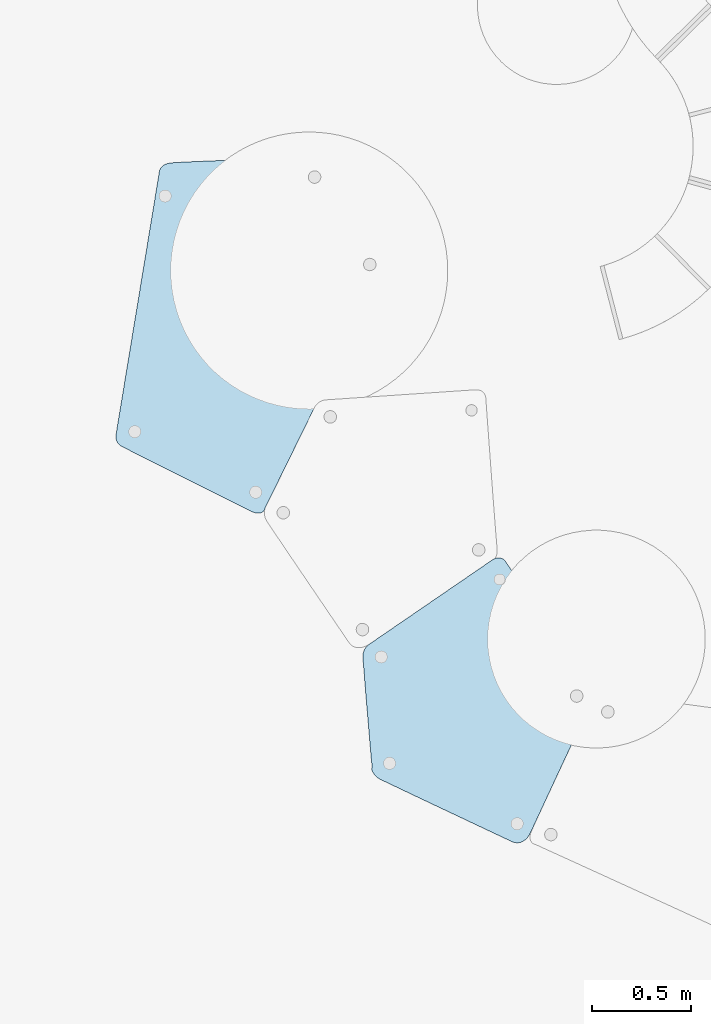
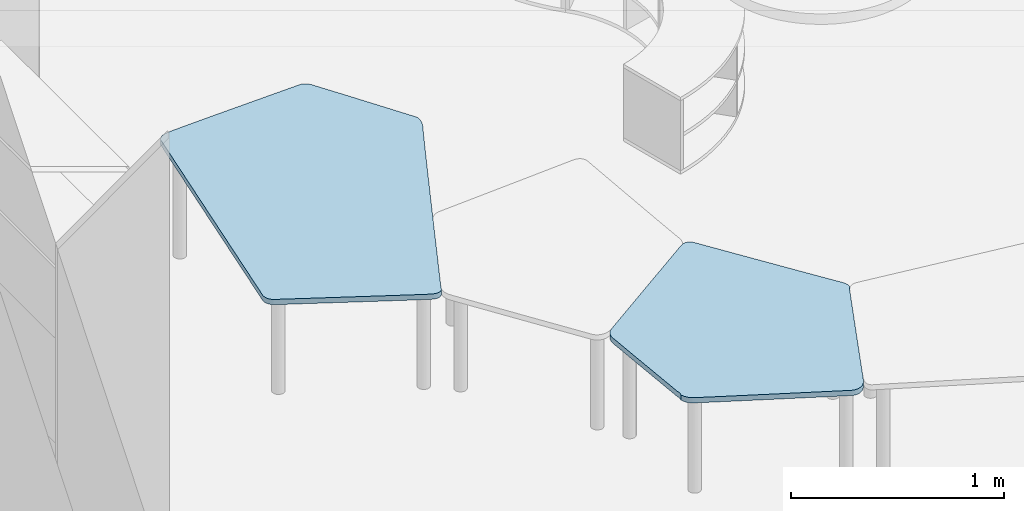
# One storey, part 9 of 64: 2 slabs.
"""IFC2X3 building model written with IfcOpenShell, lengths in metres."""

from ifc_helpers import new_model, entity, si_unit, converted_unit, derived_unit, direction, frame, frame_2d, origin, place, context, subcontext, project, spatial, polyline, circle_curve, parameter, trimmed, segment, composite_curve, outline, extrude, material, layer, layer_set, layer_usage, type_object, element, save


model = new_model("IFC2X3")

# Units and contexts
model_context = context("Model", 3, precision=1e-05, world=origin(), true_north=direction((6.123031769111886e-17, 1.0)))
body_context = subcontext(model_context, "Body", "Model", "MODEL_VIEW")
ifc_project = project(units=[si_unit("LENGTHUNIT", "METRE"), si_unit("AREAUNIT", "SQUARE_METRE"), si_unit("VOLUMEUNIT", "CUBIC_METRE"), converted_unit("PLANEANGLEUNIT", "DEGREE", entity("IfcRatioMeasure", 0.017453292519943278), si_unit("PLANEANGLEUNIT", "RADIAN"), dimensions=[0, 0, 0, 0, 0, 0, 0]), si_unit("MASSUNIT", "GRAM", prefix="KILO"), derived_unit("MASSDENSITYUNIT", [(si_unit("MASSUNIT", "GRAM", prefix="KILO"), 1), (si_unit("LENGTHUNIT", "METRE"), -3)]), derived_unit("MOMENTOFINERTIAUNIT", [(si_unit("LENGTHUNIT", "METRE"), 4)]), si_unit("TIMEUNIT", "SECOND"), si_unit("FREQUENCYUNIT", "HERTZ"), si_unit("THERMODYNAMICTEMPERATUREUNIT", "DEGREE_CELSIUS"), derived_unit("THERMALTRANSMITTANCEUNIT", [(si_unit("MASSUNIT", "GRAM", prefix="KILO"), 1), (si_unit("THERMODYNAMICTEMPERATUREUNIT", "KELVIN"), -1), (si_unit("TIMEUNIT", "SECOND"), -3)]), derived_unit("THERMALCONDUCTANCEUNIT", [(si_unit("MASSUNIT", "GRAM", prefix="KILO"), 1), (si_unit("LENGTHUNIT", "METRE"), 1), (si_unit("THERMODYNAMICTEMPERATUREUNIT", "KELVIN"), -1), (si_unit("TIMEUNIT", "SECOND"), -3)]), derived_unit("VOLUMETRICFLOWRATEUNIT", [(si_unit("LENGTHUNIT", "METRE"), 3), (si_unit("TIMEUNIT", "SECOND"), -1)]), derived_unit("MASSFLOWRATEUNIT", [(si_unit("MASSUNIT", "GRAM", prefix="KILO"), 1), (si_unit("TIMEUNIT", "SECOND"), -1)]), derived_unit("ROTATIONALFREQUENCYUNIT", [(si_unit("TIMEUNIT", "SECOND"), -1)]), si_unit("ELECTRICCURRENTUNIT", "AMPERE"), si_unit("ELECTRICVOLTAGEUNIT", "VOLT"), si_unit("POWERUNIT", "WATT"), si_unit("FORCEUNIT", "NEWTON", prefix="KILO"), si_unit("ILLUMINANCEUNIT", "LUX"), si_unit("LUMINOUSFLUXUNIT", "LUMEN"), si_unit("LUMINOUSINTENSITYUNIT", "CANDELA"), derived_unit("USERDEFINED", [(si_unit("MASSUNIT", "GRAM", prefix="KILO"), -1), (si_unit("LENGTHUNIT", "METRE"), -2), (si_unit("TIMEUNIT", "SECOND"), 3), (si_unit("LUMINOUSFLUXUNIT", "LUMEN"), 1)]), derived_unit("USERDEFINED", [(si_unit("MASSUNIT", "GRAM", prefix="KILO"), 1), (si_unit("LENGTHUNIT", "METRE"), 3), (si_unit("TIMEUNIT", "SECOND"), -3), (si_unit("ELECTRICCURRENTUNIT", "AMPERE"), -2)]), derived_unit("USERDEFINED", [(si_unit("LENGTHUNIT", "METRE"), 2), (si_unit("TIMEUNIT", "SECOND"), -2)]), derived_unit("SOUNDPOWERUNIT", [(si_unit("MASSUNIT", "GRAM", prefix="KILO"), 1), (si_unit("LENGTHUNIT", "METRE"), 2), (si_unit("TIMEUNIT", "SECOND"), -3)]), derived_unit("SOUNDPRESSUREUNIT", [(si_unit("MASSUNIT", "GRAM", prefix="KILO"), 1), (si_unit("LENGTHUNIT", "METRE"), -1), (si_unit("TIMEUNIT", "SECOND"), -2)]), derived_unit("LINEARVELOCITYUNIT", [(si_unit("LENGTHUNIT", "METRE"), 1), (si_unit("TIMEUNIT", "SECOND"), -1)]), si_unit("PRESSUREUNIT", "PASCAL"), derived_unit("USERDEFINED", [(si_unit("LENGTHUNIT", "METRE"), -2), (si_unit("MASSUNIT", "GRAM", prefix="KILO"), 1), (si_unit("TIMEUNIT", "SECOND"), -2)]), derived_unit("LINEARFORCEUNIT", [(si_unit("MASSUNIT", "GRAM", prefix="KILO"), 1), (si_unit("LENGTHUNIT", "METRE"), 1), (si_unit("TIMEUNIT", "SECOND"), -2), (si_unit("LENGTHUNIT", "METRE"), -1)]), derived_unit("PLANARFORCEUNIT", [(si_unit("MASSUNIT", "GRAM", prefix="KILO"), 1), (si_unit("LENGTHUNIT", "METRE"), 1), (si_unit("TIMEUNIT", "SECOND"), -2), (si_unit("LENGTHUNIT", "METRE"), -2)]), derived_unit("SPECIFICHEATCAPACITYUNIT", [(si_unit("LENGTHUNIT", "METRE"), 2), (si_unit("TIMEUNIT", "SECOND"), -2), (si_unit("THERMODYNAMICTEMPERATUREUNIT", "KELVIN"), -1)]), derived_unit("VAPORPERMEABILITYUNIT", [(si_unit("TIMEUNIT", "SECOND"), 1), (si_unit("LENGTHUNIT", "METRE"), -1)]), derived_unit("DYNAMICVISCOSITYUNIT", [(si_unit("MASSUNIT", "GRAM", prefix="KILO"), 1), (si_unit("LENGTHUNIT", "METRE"), -1), (si_unit("TIMEUNIT", "SECOND"), -1)]), derived_unit("THERMALEXPANSIONCOEFFICIENTUNIT", [(si_unit("THERMODYNAMICTEMPERATUREUNIT", "KELVIN"), -1)])], contexts=[model_context])

# Site, building, storey
site_placement = place(None, origin())
site = spatial("IfcSite", under=ifc_project, at=site_placement, Name="Default", CompositionType="ELEMENT")
building_placement = place(site_placement, origin())
building = spatial("IfcBuilding", under=site, at=building_placement, CompositionType="ELEMENT")
storey_placement = place(building_placement, origin())
storey = spatial("IfcBuildingStorey", under=building, at=storey_placement, Name="REZ-DE-CHAUSSÉE", CompositionType="ELEMENT", Elevation=0.0)

# Slabs
ifc_material = material(Name="Bois - Pin granuleux horizontal")
ifc_layer = layer(ifc_material, 0.03)
ifc_layer_set = layer_set([ifc_layer], Name="Sol:Dalle-007:1417")
ifc_layer_usage = layer_usage(ifc_layer_set, "AXIS3", "POSITIVE", 0.0)
slab_type = type_object("IfcSlabType", Name="Sol:Dalle-007:1417", PredefinedType="FLOOR", material=ifc_layer_set)
slab_1_placement = place(storey_placement, origin())
element("IfcSlab", 1, at=slab_1_placement, inside=storey, type_object=slab_type, material=ifc_layer_usage, Name="Sol:Dalle-007:1417", ObjectType="Sol:Dalle-007:1417", PredefinedType="FLOOR", context=body_context, shape_type="SweptSolid", body=[
    extrude(outline(composite_curve([segment(trimmed(circle_curve(frame_2d((-0.11888241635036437, -0.4268204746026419), x_axis=(1.0, 0.0)), 0.8675161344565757), [parameter(0.0)], [parameter(3.2776425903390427)], True, "PARAMETER"), True, "CONTINUOUS"), segment(trimmed(circle_curve(frame_2d((-8.564186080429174, -0.7788609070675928), x_axis=(0.9990710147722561, 0.043094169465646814)), 9.320058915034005), [parameter(0.0)], [parameter(0.557997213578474)], True, "PARAMETER"), True, "CONTINUOUS"), segment(trimmed(circle_curve(frame_2d((-38.731476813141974, -2.357232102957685), x_axis=(0.9986270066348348, 0.052384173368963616)), 39.52861093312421), [parameter(0.0)], [parameter(0.3567350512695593)], True, "PARAMETER"), True, "CONTINUOUS"), segment(trimmed(circle_curve(frame_2d((-93.98943049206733, -5.528662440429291), x_axis=(0.9983257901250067, 0.05784130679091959)), 94.87747943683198), [parameter(0.0)], [parameter(0.20427058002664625)], True, "PARAMETER"), True, "CONTINUOUS"), segment(trimmed(circle_curve(frame_2d((0.6647336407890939, 0.2993991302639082), x_axis=(0.9983224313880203, -0.05789924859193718)), 0.04437780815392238), [parameter(0.0)], [parameter(25.986118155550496)], True, "PARAMETER"), True, "CONTINUOUS"), segment(trimmed(circle_curve(frame_2d((0.6521479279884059, 0.29618593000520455), x_axis=(0.9349482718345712, 0.35478405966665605)), 0.057260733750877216), [parameter(0.0)], [parameter(20.799882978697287)], True, "PARAMETER"), True, "CONTINUOUS"), segment(trimmed(circle_curve(frame_2d((0.6409751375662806, 0.2852522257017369), x_axis=(0.7410328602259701, 0.6714687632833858)), 0.07287863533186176), [parameter(0.0)], [parameter(18.577788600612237)], True, "PARAMETER"), True, "CONTINUOUS"), segment(trimmed(circle_curve(frame_2d((0.7138821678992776, 0.42576140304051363), x_axis=(-0.436394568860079, -0.8997554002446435)), 0.08548733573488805), [parameter(356.9005785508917)], [parameter(0.0)], True, "PARAMETER"), False, "CONTINUOUS"), segment(trimmed(circle_curve(frame_2d((23.168046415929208, 45.51208256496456), x_axis=(-0.4458656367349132, -0.8950999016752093)), 50.453708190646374), [parameter(359.8072561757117)], [parameter(0.0)], True, "PARAMETER"), False, "CONTINUOUS"), segment(trimmed(circle_curve(frame_2d((-29.66167695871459, -60.50146894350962), x_axis=(0.4438945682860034, 0.8960790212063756)), 67.99441974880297), [parameter(0.0)], [parameter(0.10759431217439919)], True, "PARAMETER"), True, "CONTINUOUS"), segment(trimmed(circle_curve(frame_2d((-70.36817158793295, -142.94319971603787), x_axis=(0.4425108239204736, 0.896763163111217)), 159.93818768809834), [parameter(0.0)], [parameter(0.09199572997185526)], True, "PARAMETER"), True, "CONTINUOUS"), segment(trimmed(circle_curve(frame_2d((0.2202074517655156, 0.660573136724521), x_axis=(-0.5719837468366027, -0.8202649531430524)), 0.0775911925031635), [parameter(358.0925842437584)], [parameter(0.0)], True, "PARAMETER"), False, "CONTINUOUS"), segment(trimmed(circle_curve(frame_2d((0.16460837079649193, 0.5058946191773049), x_axis=(0.09811740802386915, 0.9951748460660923)), 0.09299435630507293), [parameter(0.0)], [parameter(21.991367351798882)], True, "PARAMETER"), True, "CONTINUOUS"), segment(trimmed(circle_curve(frame_2d((0.1794956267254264, 0.44767488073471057), x_axis=(-0.2683966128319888, 0.9633084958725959)), 0.15306473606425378), [parameter(0.0)], [parameter(9.835959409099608)], True, "PARAMETER"), True, "CONTINUOUS"), segment(trimmed(circle_curve(frame_2d((0.21231419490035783, 0.3782942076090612), x_axis=(-0.42853921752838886, 0.9035231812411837)), 0.22981580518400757), [parameter(0.0)], [parameter(8.254747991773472)], True, "PARAMETER"), True, "CONTINUOUS"), segment(trimmed(circle_curve(frame_2d((-1.8042675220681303, 3.486121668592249), x_axis=(0.5436921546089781, -0.8392847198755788)), 3.4749528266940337), [parameter(358.6042345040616)], [parameter(0.0)], True, "PARAMETER"), False, "CONTINUOUS"), segment(trimmed(circle_curve(frame_2d((-24.162704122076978, 39.33516794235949), x_axis=(0.5287318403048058, -0.8487889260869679)), 45.72476712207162), [parameter(359.7973154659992)], [parameter(0.0)], True, "PARAMETER"), False, "CONTINUOUS"), segment(trimmed(circle_curve(frame_2d((-107.47377627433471, 174.0676198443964), x_axis=(0.5258782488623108, -0.8505598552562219)), 204.13426191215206), [parameter(359.87486221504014)], [parameter(0.0)], True, "PARAMETER"), False, "CONTINUOUS"), segment(trimmed(circle_curve(frame_2d((-265.1613114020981, 430.10128272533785), x_axis=(0.5242502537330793, -0.8515642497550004)), 504.83109875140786), [parameter(359.92983554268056)], [parameter(0.0)], True, "PARAMETER"), False, "CONTINUOUS"), segment(trimmed(circle_curve(frame_2d((-1.0204082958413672, -0.15007678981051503), x_axis=(-0.29517086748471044, 0.9554444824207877)), 0.03293324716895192), [parameter(0.0)], [parameter(40.01981883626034)], True, "PARAMETER"), True, "CONTINUOUS"), segment(trimmed(circle_curve(frame_2d((-1.0185055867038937, -0.15104750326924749), x_axis=(-0.8437601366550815, 0.536720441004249)), 0.03505905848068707), [parameter(0.0)], [parameter(36.75676174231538)], True, "PARAMETER"), True, "CONTINUOUS"), segment(trimmed(circle_curve(frame_2d((-0.9939239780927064, -0.14971574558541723), x_axis=(-0.9977978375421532, -0.06632854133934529)), 0.05967357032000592), [parameter(0.0)], [parameter(15.399023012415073)], True, "PARAMETER"), True, "CONTINUOUS"), segment(trimmed(circle_curve(frame_2d((-0.9488589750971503, -0.1342244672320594), x_axis=(-0.94495259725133, -0.32720725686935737)), 0.10732662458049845), [parameter(0.0)], [parameter(11.46473493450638)], True, "PARAMETER"), True, "CONTINUOUS"), segment(trimmed(circle_curve(frame_2d((0.4745618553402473, 0.7007147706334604), x_axis=(-0.8624690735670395, -0.5061097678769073)), 1.7575535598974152), [parameter(0.0)], [parameter(0.8777678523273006)], True, "PARAMETER"), True, "CONTINUOUS"), segment(trimmed(circle_curve(frame_2d((0.7535755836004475, 0.9005266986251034), x_axis=(-0.8481499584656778, -0.529756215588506)), 2.099917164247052), [parameter(0.0)], [parameter(0.08889748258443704)], True, "PARAMETER"), True, "CONTINUOUS"), segment(trimmed(circle_curve(frame_2d((19.548504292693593, 12.503947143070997), x_axis=(-0.8505945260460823, -0.5258221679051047)), 24.18807619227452), [parameter(0.0)], [parameter(0.223562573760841)], True, "PARAMETER"), True, "CONTINUOUS"), segment(trimmed(circle_curve(frame_2d((87.67307280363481, 54.96304846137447), x_axis=(-0.8486333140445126, -0.5289815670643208)), 104.4609360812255), [parameter(0.0)], [parameter(0.14117936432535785)], True, "PARAMETER"), True, "CONTINUOUS"), segment(trimmed(circle_curve(frame_2d((213.91393726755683, 133.99524966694), x_axis=(-0.8474880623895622, -0.5308144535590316)), 253.39999160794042), [parameter(0.0)], [parameter(0.08024079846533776)], True, "PARAMETER"), True, "CONTINUOUS"), segment(trimmed(circle_curve(frame_2d((-0.6055735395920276, -0.7772285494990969), x_axis=(-0.7789799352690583, -0.6270488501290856)), 0.058245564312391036), [parameter(0.0)], [parameter(60.05454749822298)], True, "PARAMETER"), True, "CONTINUOUS"), segment(polyline([(-0.596575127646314, -0.8347748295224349), (0.7043496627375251, -0.49235907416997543)]), True, "CONTINUOUS"), segment(trimmed(circle_curve(frame_2d((0.7020356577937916, -0.4554112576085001), x_axis=(0.06250653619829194, -0.9980445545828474)), 0.03702020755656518), [parameter(0.0)], [parameter(30.46259076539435)], True, "PARAMETER"), True, "CONTINUOUS"), segment(trimmed(circle_curve(frame_2d((0.6963879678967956, -0.44502440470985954), x_axis=(0.5404297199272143, -0.8413891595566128)), 0.04880174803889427), [parameter(0.0)], [parameter(30.535206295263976)], True, "PARAMETER"), True, "CONTINUOUS"), segment(trimmed(circle_curve(frame_2d((0.6767547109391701, -0.4347858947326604), x_axis=(0.8910196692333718, -0.4539647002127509)), 0.07094283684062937), [parameter(0.0)], [parameter(14.589557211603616)], True, "PARAMETER"), True, "CONTINUOUS"), segment(trimmed(circle_curve(frame_2d((0.6370955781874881, -0.4261072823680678), x_axis=(0.9767284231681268, -0.21447980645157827)), 0.11154042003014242), [parameter(0.0)], [parameter(12.018657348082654)], True, "PARAMETER"), True, "CONTINUOUS")], self_intersect=False)), frame((112.47039684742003, 8.665975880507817, 0.5900000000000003), z_axis=(0.0, 0.0, -1.0), x_axis=(-0.09382646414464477, 0.9955885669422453, 0.0)), (0.0, 0.0, 1.0), 0.030000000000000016),
])
slab_2_placement = place(storey_placement, origin())
element("IfcSlab", 2, at=slab_2_placement, inside=storey, type_object=slab_type, material=ifc_layer_usage, Name="Sol:Dalle-007:1417", ObjectType="Sol:Dalle-007:1417", PredefinedType="FLOOR", context=body_context, shape_type="SweptSolid", body=[
    extrude(outline(composite_curve([segment(trimmed(circle_curve(frame_2d((0.6186940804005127, 0.4092162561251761), x_axis=(1.0, 0.0)), 0.055140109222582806), [parameter(0.0)], [parameter(15.284446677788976)], True, "PARAMETER"), True, "CONTINUOUS"), segment(trimmed(circle_curve(frame_2d((0.6319975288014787, 0.4127724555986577), x_axis=(0.9641397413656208, 0.2653951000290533)), 0.041369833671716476), [parameter(0.0)], [parameter(31.007655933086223)], True, "PARAMETER"), True, "CONTINUOUS"), segment(trimmed(circle_curve(frame_2d((0.6325583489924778, 0.4143259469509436), x_axis=(0.7016321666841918, 0.7125393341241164)), 0.03986365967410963), [parameter(0.0)], [parameter(32.87456919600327)], True, "PARAMETER"), True, "CONTINUOUS"), segment(trimmed(circle_curve(frame_2d((51.95560351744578, 248.60317459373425), x_axis=(-0.20250581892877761, -0.9792810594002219)), 253.39999129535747), [parameter(359.919694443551)], [parameter(0.0)], True, "PARAMETER"), False, "CONTINUOUS"), segment(trimmed(circle_curve(frame_2d((21.559215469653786, 102.79883929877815), x_axis=(-0.2035817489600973, -0.9790579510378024)), 104.46093607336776), [parameter(359.8588206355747)], [parameter(0.0)], True, "PARAMETER"), False, "CONTINUOUS"), segment(trimmed(circle_curve(frame_2d((5.019184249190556, 24.248476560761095), x_axis=(-0.20581422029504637, -0.9785910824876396)), 24.188076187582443), [parameter(359.7764374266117)], [parameter(0.0)], True, "PARAMETER"), False, "CONTINUOUS"), segment(trimmed(circle_curve(frame_2d((0.3761169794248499, 2.6537865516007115), x_axis=(-0.20358117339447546, -0.9790580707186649)), 2.0999171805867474), [parameter(358.6135266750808)], [parameter(0.0)], True, "PARAMETER"), False, "CONTINUOUS"), segment(trimmed(circle_curve(frame_2d((-0.13367435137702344, 0.47658305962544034), x_axis=(0.23987316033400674, 0.9708042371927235)), 0.13618450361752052), [parameter(0.0)], [parameter(8.862617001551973)], True, "PARAMETER"), True, "CONTINUOUS"), segment(trimmed(circle_curve(frame_2d((-0.12915480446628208, 0.5292088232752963), x_axis=(0.08862974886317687, 0.9960646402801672)), 0.08336517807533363), [parameter(0.0)], [parameter(11.1707372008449)], True, "PARAMETER"), True, "CONTINUOUS"), segment(trimmed(circle_curve(frame_2d((-0.13392533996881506, 0.5659318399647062), x_axis=(-0.08776193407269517, 0.9961414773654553)), 0.046351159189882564), [parameter(0.0)], [parameter(27.754107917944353)], True, "PARAMETER"), True, "CONTINUOUS"), segment(trimmed(circle_curve(frame_2d((-0.14188781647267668, 0.5792784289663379), x_axis=(-0.5560286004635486, 0.8311631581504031)), 0.030823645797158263), [parameter(0.0)], [parameter(15.071968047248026)], True, "PARAMETER"), True, "CONTINUOUS"), segment(trimmed(circle_curve(frame_2d((-0.21822827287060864, 0.6234308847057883), x_axis=(0.9121607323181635, -0.4098326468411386)), 0.058245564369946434), [parameter(348.99288421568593)], [parameter(0.0)], True, "PARAMETER"), False, "CONTINUOUS"), segment(trimmed(circle_curve(frame_2d((-140.97083678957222, 126.69442452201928), x_axis=(0.7449114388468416, -0.6671633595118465)), 189.01602982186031), [parameter(359.89583319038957)], [parameter(0.0)], True, "PARAMETER"), False, "CONTINUOUS"), segment(trimmed(circle_curve(frame_2d((-59.11077213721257, 53.06857435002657), x_axis=(0.743955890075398, -0.6682287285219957)), 78.91683016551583), [parameter(359.81835603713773)], [parameter(0.0)], True, "PARAMETER"), False, "CONTINUOUS"), segment(trimmed(circle_curve(frame_2d((-14.421707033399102, 12.666133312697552), x_axis=(0.7419817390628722, -0.6704200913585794)), 18.67174978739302), [parameter(359.97887439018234)], [parameter(0.0)], True, "PARAMETER"), False, "CONTINUOUS"), segment(polyline([(-0.5722260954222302, 0.14310980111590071), (-0.6678989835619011, 0.036679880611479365)]), True, "CONTINUOUS"), segment(trimmed(circle_curve(frame_2d((-0.5688810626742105, -0.05389694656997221), x_axis=(-0.7378575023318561, 0.6749565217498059)), 0.13419653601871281), [parameter(0.0)], [parameter(12.19688936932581)], True, "PARAMETER"), True, "CONTINUOUS"), segment(trimmed(circle_curve(frame_2d((-0.6097862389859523, -0.02996922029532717), x_axis=(-0.8641461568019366, 0.5032409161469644)), 0.08680704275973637), [parameter(0.0)], [parameter(14.80828140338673)], True, "PARAMETER"), True, "CONTINUOUS"), segment(trimmed(circle_curve(frame_2d((-0.6329391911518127, -0.023630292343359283), x_axis=(-0.9638975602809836, 0.2662733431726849)), 0.06280206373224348), [parameter(0.0)], [parameter(30.78146163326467)], True, "PARAMETER"), True, "CONTINUOUS"), segment(trimmed(circle_curve(frame_2d((-0.6379389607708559, -0.02599821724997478), x_axis=(-0.9686746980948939, -0.24833310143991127)), 0.0573620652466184), [parameter(0.0)], [parameter(34.24950335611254)], True, "PARAMETER"), True, "CONTINUOUS"), segment(trimmed(circle_curve(frame_2d((157.76881479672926, 177.36050042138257), x_axis=(-0.6660752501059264, -0.7458845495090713)), 237.87802746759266), [parameter(0.0)], [parameter(0.08691229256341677)], True, "PARAMETER"), True, "CONTINUOUS"), segment(trimmed(circle_curve(frame_2d((59.296680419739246, 66.70268238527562), x_axis=(-0.665216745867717, -0.746650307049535)), 89.75000488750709), [parameter(0.0)], [parameter(0.1627680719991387)], True, "PARAMETER"), True, "CONTINUOUS"), segment(trimmed(circle_curve(frame_2d((11.560627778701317, 12.806817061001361), x_axis=(-0.6633359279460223, -0.7483217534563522)), 17.75351293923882), [parameter(0.0)], [parameter(0.28700061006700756)], True, "PARAMETER"), True, "CONTINUOUS"), segment(trimmed(circle_curve(frame_2d((0.32975922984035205, -0.013288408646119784), x_axis=(-0.6746472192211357, -0.7381403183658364)), 0.7099700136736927), [parameter(0.0)], [parameter(3.34504777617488)], True, "PARAMETER"), True, "CONTINUOUS"), segment(trimmed(circle_curve(frame_2d((-0.0746615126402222, -0.5062401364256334), x_axis=(-0.5959600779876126, -0.8030140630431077)), 0.07242816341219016), [parameter(0.0)], [parameter(33.893854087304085)], True, "PARAMETER"), True, "CONTINUOUS"), segment(trimmed(circle_curve(frame_2d((-0.07116477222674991, -0.5013041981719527), x_axis=(-0.08883063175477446, -0.9960467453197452)), 0.07759119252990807), [parameter(0.0)], [parameter(13.20435142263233)], True, "PARAMETER"), True, "CONTINUOUS"), segment(trimmed(circle_curve(frame_2d((-0.0013539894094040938, -0.65010996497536), x_axis=(-0.6330206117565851, 0.7741349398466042)), 0.09299435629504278), [parameter(358.95797713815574)], [parameter(0.0)], True, "PARAMETER"), False, "CONTINUOUS"), segment(trimmed(circle_curve(frame_2d((-0.02251957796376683, -0.623962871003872), x_axis=(-0.6129293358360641, 0.7901377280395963)), 0.059358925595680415), [parameter(337.99710107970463)], [parameter(0.0)], True, "PARAMETER"), False, "CONTINUOUS"), segment(trimmed(circle_curve(frame_2d((-0.029699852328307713, -0.5960147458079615), x_axis=(-0.2942593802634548, 0.9557255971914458)), 0.030519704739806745), [parameter(343.77817860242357)], [parameter(0.0)], True, "PARAMETER"), False, "CONTINUOUS"), segment(trimmed(circle_curve(frame_2d((-300.25057950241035, 911.4309964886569), x_axis=(0.3126838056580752, -0.9498572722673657)), 960.1405620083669), [parameter(0.0)], [parameter(0.014648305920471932)], True, "PARAMETER"), True, "CONTINUOUS"), segment(trimmed(circle_curve(frame_2d((-15.47913733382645, 47.465930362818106), x_axis=(0.3108218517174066, -0.9504681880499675)), 50.453708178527), [parameter(0.0)], [parameter(0.12385865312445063)], True, "PARAMETER"), True, "CONTINUOUS"), segment(trimmed(circle_curve(frame_2d((21.939466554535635, -64.91601156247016), x_axis=(-0.3181564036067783, 0.9480382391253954)), 67.99441981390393), [parameter(359.9491988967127)], [parameter(0.0)], True, "PARAMETER"), False, "CONTINUOUS"), segment(trimmed(circle_curve(frame_2d((1.687462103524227, -4.2817383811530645), x_axis=(-0.32542365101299, 0.9455683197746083)), 4.067598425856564), [parameter(358.4583862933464)], [parameter(0.0)], True, "PARAMETER"), False, "CONTINUOUS"), segment(trimmed(circle_curve(frame_2d((0.491807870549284, -0.47011068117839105), x_axis=(-0.3304853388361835, 0.9438111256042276)), 0.07287863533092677), [parameter(356.36418229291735)], [parameter(0.0)], True, "PARAMETER"), False, "CONTINUOUS"), segment(trimmed(circle_curve(frame_2d((0.44425857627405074, -0.3191228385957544), x_axis=(0.3260638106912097, -0.9453477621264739)), 0.08548733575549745), [parameter(0.0)], [parameter(28.009506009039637)], True, "PARAMETER"), True, "CONTINUOUS"), segment(trimmed(circle_curve(frame_2d((0.4523573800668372, -0.32834848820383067), x_axis=(0.7431801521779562, -0.669091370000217)), 0.0732835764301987), [parameter(0.0)], [parameter(22.127027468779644)], True, "PARAMETER"), True, "CONTINUOUS"), segment(trimmed(circle_curve(frame_2d((0.47580269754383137, -0.33553420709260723), x_axis=(0.9317450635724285, -0.3631131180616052)), 0.04880673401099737), [parameter(0.0)], [parameter(13.683743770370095)], True, "PARAMETER"), True, "CONTINUOUS"), segment(polyline([(0.524179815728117, -0.3419957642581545), (0.6717588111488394, 0.390692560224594)]), True, "CONTINUOUS"), segment(trimmed(circle_curve(frame_2d((0.5893213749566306, 0.40930688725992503), x_axis=(0.9754424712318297, -0.22025436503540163)), 0.08451286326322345), [parameter(0.0)], [parameter(12.662529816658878)], True, "PARAMETER"), True, "CONTINUOUS")], self_intersect=False)), frame((113.49489981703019, 6.5931222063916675, 0.59), z_axis=(0.0, 0.0, -1.0), x_axis=(-0.3912292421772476, 0.9202932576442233, 0.0)), (0.0, 0.0, 1.0), 0.03000000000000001),
])

save(model, "model.ifc")
